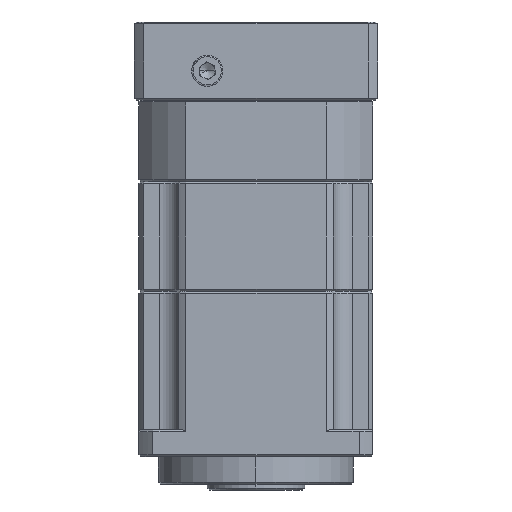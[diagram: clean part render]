
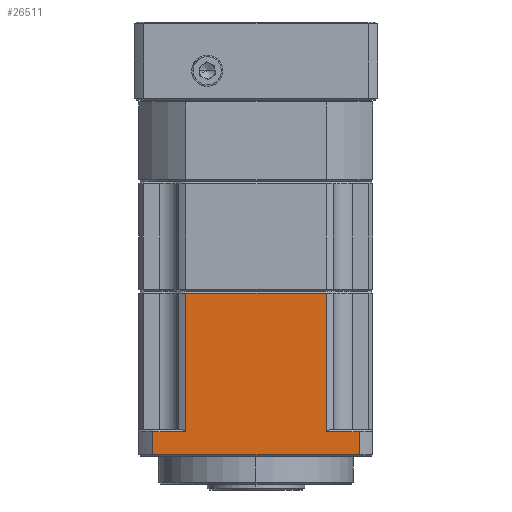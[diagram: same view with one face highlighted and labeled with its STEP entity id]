
A CAD part, left-side view. The second image highlights one B-rep face of the part: STEP entity #26511.
In plain terms, the highlighted planar face has unit normal (-1, 0, 0).
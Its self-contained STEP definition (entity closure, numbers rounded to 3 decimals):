
#1127 = CARTESIAN_POINT ( 'NONE',  ( -55.202, 62.551, -88.38 ) ) ;
#1272 = VECTOR ( 'NONE', #110290, 1000. ) ;
#1509 = CARTESIAN_POINT ( 'NONE',  ( -55.202, 9.636, -57.88 ) ) ;
#2583 = VECTOR ( 'NONE', #27751, 1000. ) ;
#3988 = LINE ( 'NONE', #87259, #2583 ) ;
#5107 = VERTEX_POINT ( 'NONE', #71697 ) ;
#5278 = EDGE_CURVE ( 'NONE', #56497, #97344, #48239, .T. ) ;
#5421 = EDGE_CURVE ( 'NONE', #5107, #56497, #95076, .T. ) ;
#6631 = LINE ( 'NONE', #45585, #34711 ) ;
#7793 = CARTESIAN_POINT ( 'NONE',  ( -55.202, 6.094, -57.88 ) ) ;
#8710 = VERTEX_POINT ( 'NONE', #100206 ) ;
#10201 = ORIENTED_EDGE ( 'NONE', *, *, #26407, .F. ) ;
#14501 = DIRECTION ( 'NONE',  ( 1., 0., 0. ) ) ;
#15378 = LINE ( 'NONE', #61621, #59664 ) ;
#16452 = EDGE_CURVE ( 'NONE', #41070, #8710, #15378, .T. ) ;
#25473 = VECTOR ( 'NONE', #58870, 1000. ) ;
#25726 = EDGE_CURVE ( 'NONE', #8710, #76860, #27034, .T. ) ;
#26407 = EDGE_CURVE ( 'NONE', #76860, #85793, #92277, .T. ) ;
#26511 = ADVANCED_FACE ( 'NONE', ( #77527 ), #84856, .F. ) ;
#27034 = LINE ( 'NONE', #60055, #93913 ) ;
#27751 = DIRECTION ( 'NONE',  ( 0., 0., 1. ) ) ;
#28416 = DIRECTION ( 'NONE',  ( 0., 1., 0. ) ) ;
#30508 = ORIENTED_EDGE ( 'NONE', *, *, #61254, .F. ) ;
#34275 = CARTESIAN_POINT ( 'NONE',  ( -55.202, 6.094, -88.38 ) ) ;
#34711 = VECTOR ( 'NONE', #106173, 1000. ) ;
#40076 = ORIENTED_EDGE ( 'NONE', *, *, #5421, .F. ) ;
#41056 = ORIENTED_EDGE ( 'NONE', *, *, #100298, .F. ) ;
#41070 = VERTEX_POINT ( 'NONE', #72536 ) ;
#41577 = CARTESIAN_POINT ( 'NONE',  ( -55.202, 62.551, -57.88 ) ) ;
#45158 = CARTESIAN_POINT ( 'NONE',  ( -55.202, 9.636, -88.38 ) ) ;
#45585 = CARTESIAN_POINT ( 'NONE',  ( -55.202, 6.094, -88.38 ) ) ;
#48239 = LINE ( 'NONE', #41577, #25473 ) ;
#56497 = VERTEX_POINT ( 'NONE', #83387 ) ;
#58870 = DIRECTION ( 'NONE',  ( 0., 0., 1. ) ) ;
#59664 = VECTOR ( 'NONE', #96730, 1000. ) ;
#60055 = CARTESIAN_POINT ( 'NONE',  ( -55.202, 18.066, -57.88 ) ) ;
#61254 = EDGE_CURVE ( 'NONE', #73349, #41070, #3988, .T. ) ;
#61621 = CARTESIAN_POINT ( 'NONE',  ( -55.202, 36.094, -52.88 ) ) ;
#61978 = AXIS2_PLACEMENT_3D ( 'NONE', #7793, #14501, #85950 ) ;
#70905 = DIRECTION ( 'NONE',  ( 0., 0., -1. ) ) ;
#71697 = CARTESIAN_POINT ( 'NONE',  ( -55.202, 9.636, -94.38 ) ) ;
#72536 = CARTESIAN_POINT ( 'NONE',  ( -55.202, 54.122, -52.88 ) ) ;
#73066 = CARTESIAN_POINT ( 'NONE',  ( -55.202, 18.066, -88.38 ) ) ;
#73349 = VERTEX_POINT ( 'NONE', #76991 ) ;
#76860 = VERTEX_POINT ( 'NONE', #73066 ) ;
#76991 = CARTESIAN_POINT ( 'NONE',  ( -55.202, 54.122, -88.38 ) ) ;
#77240 = EDGE_CURVE ( 'NONE', #97344, #73349, #6631, .T. ) ;
#77527 = FACE_OUTER_BOUND ( 'NONE', #107703, .T. ) ;
#83387 = CARTESIAN_POINT ( 'NONE',  ( -55.202, 62.551, -94.38 ) ) ;
#84856 = PLANE ( 'NONE',  #61978 ) ;
#85266 = ORIENTED_EDGE ( 'NONE', *, *, #16452, .F. ) ;
#85793 = VERTEX_POINT ( 'NONE', #45158 ) ;
#85950 = DIRECTION ( 'NONE',  ( 0., 0., -1. ) ) ;
#87259 = CARTESIAN_POINT ( 'NONE',  ( -55.202, 54.122, -57.88 ) ) ;
#92277 = LINE ( 'NONE', #34275, #1272 ) ;
#93913 = VECTOR ( 'NONE', #70905, 1000. ) ;
#94619 = VECTOR ( 'NONE', #99075, 1000. ) ;
#95076 = LINE ( 'NONE', #105867, #100409 ) ;
#96730 = DIRECTION ( 'NONE',  ( 0., -1., 0. ) ) ;
#97344 = VERTEX_POINT ( 'NONE', #1127 ) ;
#98594 = LINE ( 'NONE', #1509, #94619 ) ;
#99075 = DIRECTION ( 'NONE',  ( 0., 0., -1. ) ) ;
#100206 = CARTESIAN_POINT ( 'NONE',  ( -55.202, 18.066, -52.88 ) ) ;
#100298 = EDGE_CURVE ( 'NONE', #85793, #5107, #98594, .T. ) ;
#100409 = VECTOR ( 'NONE', #28416, 1000. ) ;
#103004 = ORIENTED_EDGE ( 'NONE', *, *, #5278, .F. ) ;
#103340 = ORIENTED_EDGE ( 'NONE', *, *, #25726, .F. ) ;
#105867 = CARTESIAN_POINT ( 'NONE',  ( -55.202, 6.094, -94.38 ) ) ;
#106173 = DIRECTION ( 'NONE',  ( 0., -1., 0. ) ) ;
#107703 = EDGE_LOOP ( 'NONE', ( #85266, #30508, #108931, #103004, #40076, #41056, #10201, #103340 ) ) ;
#108931 = ORIENTED_EDGE ( 'NONE', *, *, #77240, .F. ) ;
#110290 = DIRECTION ( 'NONE',  ( 0., -1., 0. ) ) ;
